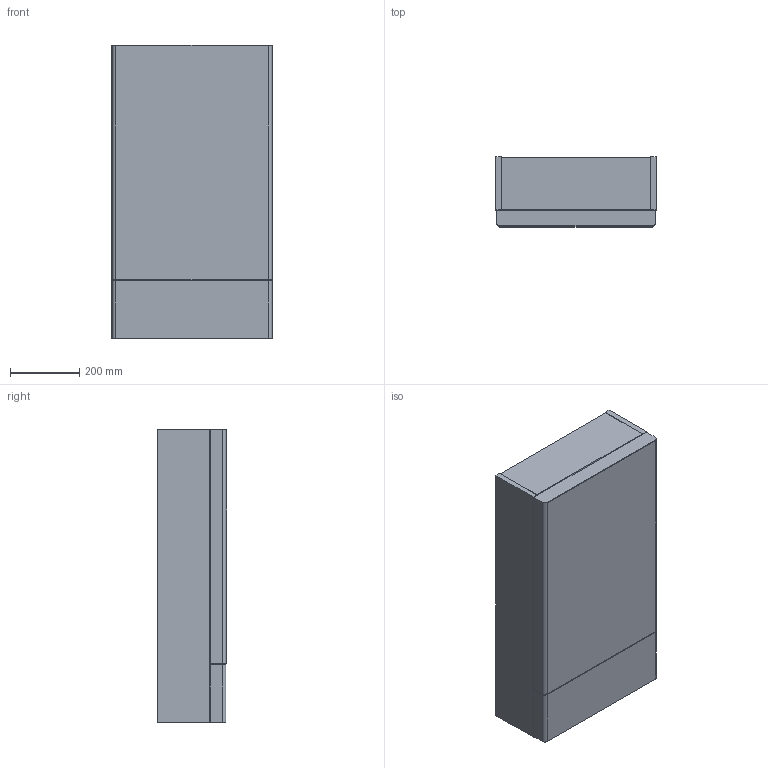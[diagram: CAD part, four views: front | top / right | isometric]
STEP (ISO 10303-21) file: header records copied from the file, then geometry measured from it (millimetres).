
FILE_DESCRIPTION(/* description */ (''),/* implementation_level */ '2;1');
FILE_NAME(/* name */ 'C:\Planerdaten\Export PLA\500.155_6_7.01.1\stp\501413.stp',/* time_stamp */ '2019-11-26T14:59:46+01:00',/* author */ ('JANAN'),/* organization */ (''),/* preprocessor_version */ 'ST-DEVELOPER v16.13',/* originating_system */ 'Autodesk Inventor 2018',/* authorisation */ '');
FILE_SCHEMA (('AUTOMOTIVE_DESIGN { 1 0 10303 214 3 1 1 }'));
Length unit declared in the file: millimetre
Products named in the file (1): SpglSchrk Ge+SnvS B55 1-Tü 1-Klappe lav
Bounding box: 464 x 202.11 x 850 mm (x, y, z)
Volume: 28169144.3 mm3; surface area: 2810764.6 mm2
Topology: 3 solids, 3 shells, 56 faces, 146 edges, 96 vertices
Faces by surface type: plane 52, cylinder 4
Entity records: 1731 total; most frequent: CARTESIAN_POINT 299, ORIENTED_EDGE 292, DIRECTION 268, EDGE_CURVE 146, LINE 138, VECTOR 138, VERTEX_POINT 96, AXIS2_PLACEMENT_3D 65
